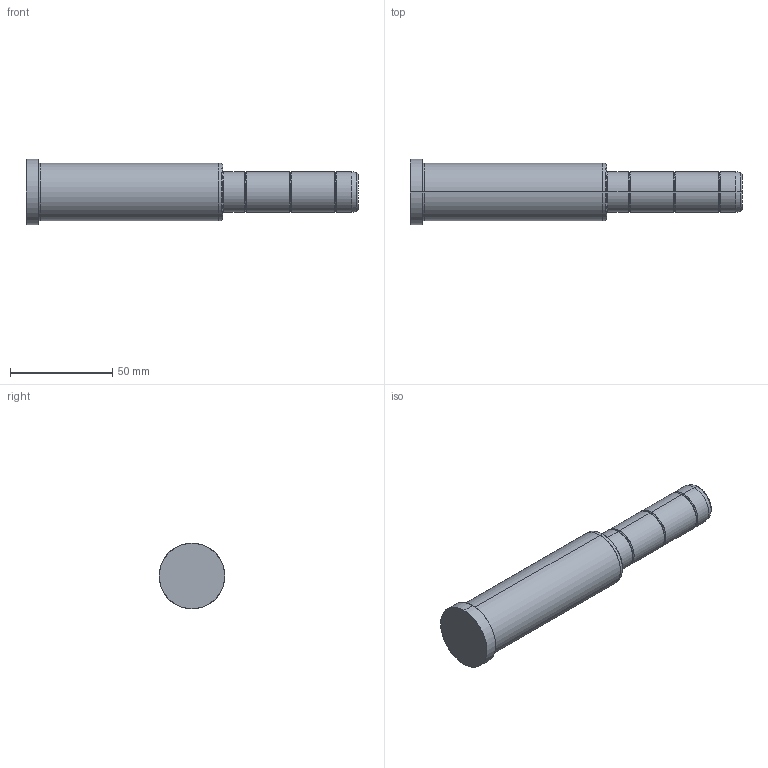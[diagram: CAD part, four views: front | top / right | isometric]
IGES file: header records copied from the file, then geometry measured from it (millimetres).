
Start section: SolidWorks IGES file using analytic representation for surfaces
Global section: file name: C:\Documents and Settings\kalite-mail\Desktop\IGS\D02\20\D02 - 20x96x66.IGS; native system: SolidWorks 2008; preprocessor: SolidWorks 2008; author: kalite-mail; date: 080616.165616; units: millimetre
Bounding box: 162 x 32 x 32 mm (x, y, z)
Surface area: 14278.3 mm2 (no closed solid volume)
Topology: 0 solids, 0 shells, 42 faces, 688 edges, 688 vertices
Faces by surface type: bspline 22, revolution 20
